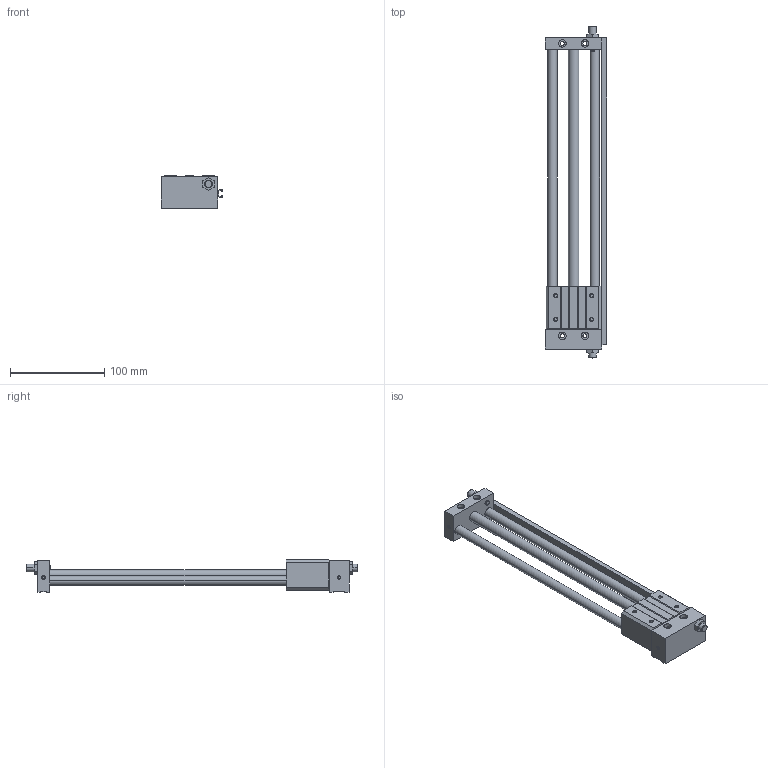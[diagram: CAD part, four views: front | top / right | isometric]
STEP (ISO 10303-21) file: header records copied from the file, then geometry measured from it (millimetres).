
FILE_DESCRIPTION((''),'2;1');
FILE_NAME('C:\Documents and Settings\Administrator\桌面\GYS\GYS10\GYSR10X250.stp','2012-03-05T10:10:59',('Administrator'),(''),'Autodesk Inventor 8','Autodesk Inventor 8','');
FILE_SCHEMA(('AUTOMOTIVE_DESIGN { 1 0 10303 214 1 1 1 1 }'));
Length unit declared in the file: millimetre
Products named in the file (3): GYSR10X250; GYS10X250; GYS10160X250
Assembly tree (2 placements, depth 2):
  GYSR10X250
    GYS10X250
    GYS10160X250
Bounding box: 65 x 352 x 34 mm (x, y, z)
Volume: 212899.5 mm3; surface area: 65174 mm2
Topology: 2 solids, 2 shells, 193 faces, 462 edges, 296 vertices
Faces by surface type: plane 97, cylinder 58, cone 32, bspline 6
Entity records: 5756 total; most frequent: CARTESIAN_POINT 1030, DIRECTION 1006, ORIENTED_EDGE 924, EDGE_CURVE 462, AXIS2_PLACEMENT_3D 352, VECTOR 302, LINE 302, VERTEX_POINT 296
